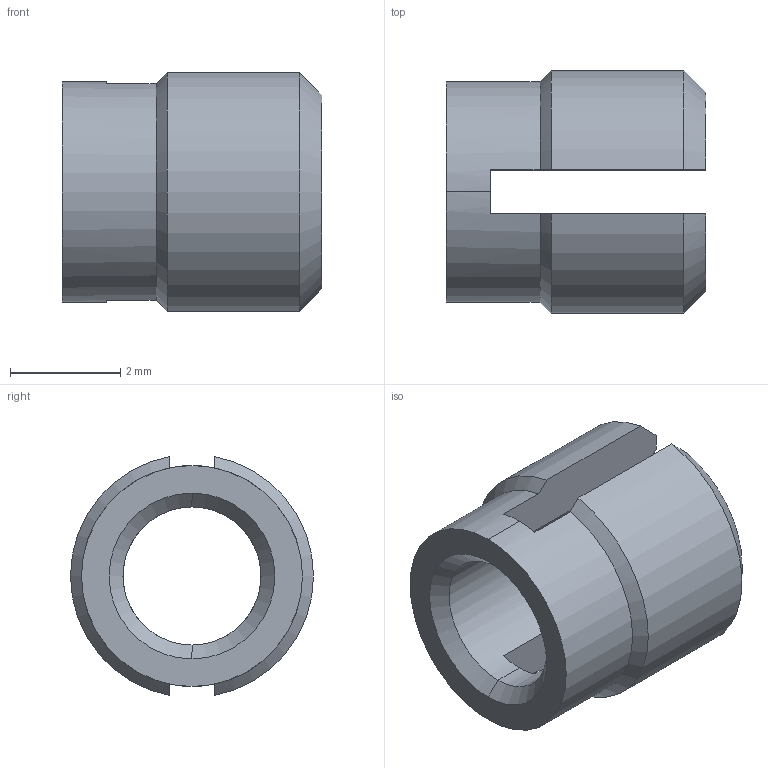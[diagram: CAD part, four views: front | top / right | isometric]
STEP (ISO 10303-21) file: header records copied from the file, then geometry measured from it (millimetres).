
FILE_DESCRIPTION (( 'STEP AP203' ), '1' );
FILE_NAME ('FSUK-EXP-M03-S.STEP', '2021-04-15T13:39:15', ( '' ), ( '' ), 'SwSTEP 2.0', 'SolidWorks 2021', '' );
FILE_SCHEMA (( 'CONFIG_CONTROL_DESIGN' ));
Length unit declared in the file: millimetre
Products named in the file (1): FSUK-EXP-M03-S
Bounding box: 4.7 x 4.4 x 4.33 mm (x, y, z)
Volume: 36.6 mm3; surface area: 114.6 mm2
Topology: 1 solids, 1 shells, 23 faces, 64 edges, 42 vertices
Faces by surface type: plane 9, cone 8, cylinder 6
Entity records: 841 total; most frequent: CARTESIAN_POINT 166, ORIENTED_EDGE 128, DIRECTION 126, EDGE_CURVE 64, AXIS2_PLACEMENT_3D 50, VERTEX_POINT 42, VECTOR 26, CIRCLE 26
